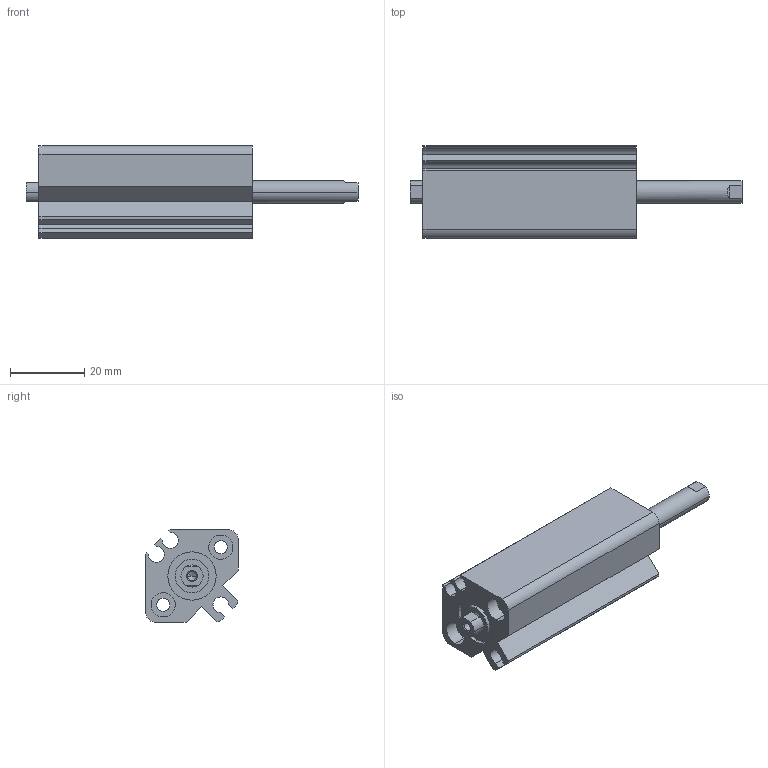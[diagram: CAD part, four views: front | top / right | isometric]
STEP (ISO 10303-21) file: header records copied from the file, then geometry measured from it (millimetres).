
FILE_DESCRIPTION (( 'STEP AP203' ), '1' );
FILE_NAME ('CCMB12-25F-P.STEP', '2020-08-05T11:01:57', ( '' ), ( '' ), 'SwSTEP 2.0', 'SolidWorks 2019', '' );
FILE_SCHEMA (( 'CONFIG_CONTROL_DESIGN' ));
Length unit declared in the file: millimetre
Products named in the file (1): CCMB12-25F-P
Bounding box: 89.4 x 25 x 25 mm (x, y, z)
Volume: 25863.6 mm3; surface area: 13867 mm2
Topology: 2 solids, 2 shells, 109 faces, 261 edges, 168 vertices
Faces by surface type: cylinder 50, plane 47, cone 12
Entity records: 3250 total; most frequent: DIRECTION 585, CARTESIAN_POINT 547, ORIENTED_EDGE 514, EDGE_CURVE 257, AXIS2_PLACEMENT_3D 222, VERTEX_POINT 168, VECTOR 141, LINE 141
